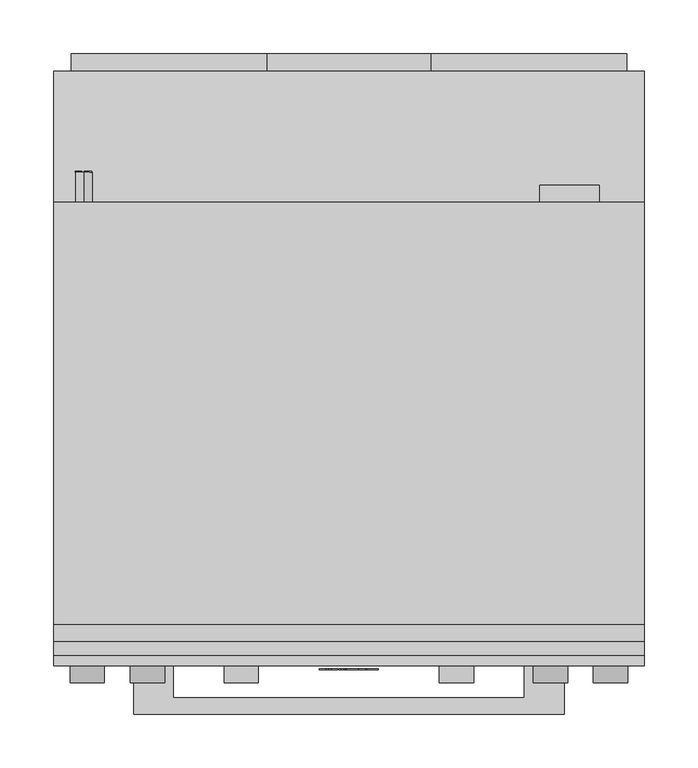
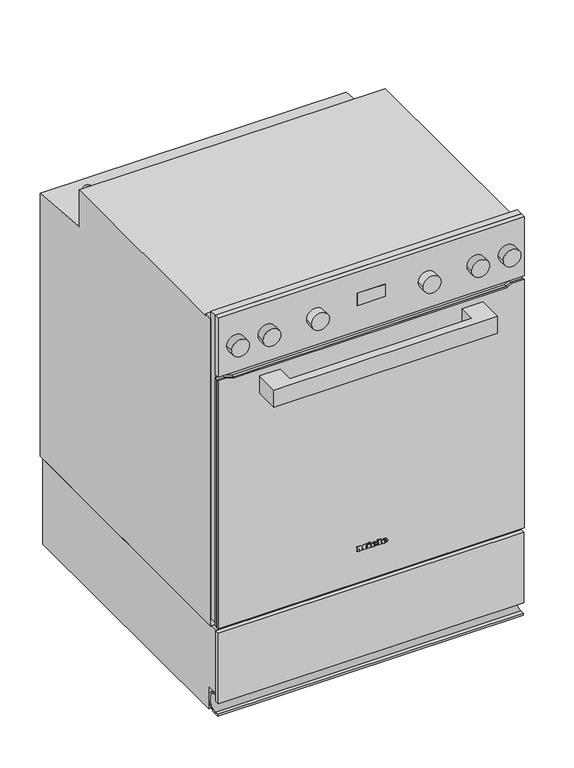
"""IFC4 building model written with IfcOpenShell, lengths in millimetres: proxy geometry, 12395250_CH_H2456-55E_OBSW : 22245626_CH_12395250_H2456-55E_OBSW."""

from ifc_helpers import new_model, si_unit, point, frame, frame_2d, origin, place, context, project, spatial, polyline, circle_curve, ellipse_curve, trimmed, segment, composite_curve, outline, extrude, faceted_brep, source, transform, mapped, element, save
from ifc_brep_helpers import plane_surface, cylinder_surface, revolved_surface, extruded_surface, advanced_brep


def specialty_equipment_07215765(model_context):
    return source(origin(), model_context, "Body", "SolidModel", [
        extrude(outline(polyline([(-273.5, -14.0), (273.5, -14.0), (273.5, -22.0), (-273.5, -22.0), (-273.5, -14.0)])), frame((0.0, 0.0, 28.0), z_axis=(0.0, 0.0, 1.0), x_axis=(1.0, 0.0, 0.0)), (0.0, 0.0, 1.0), 133.5),
        extrude(outline(composite_curve([segment(polyline([(-20.0, 3.3413786), (-20.0, 6.5166751), (-12.6417749, 6.5166751)]), True, "CONTINUOUS"), segment(trimmed(circle_curve(frame_2d((-12.6417749, 23.0333249)), 16.5166498), [point((-12.6417749, 6.5166751))], [point((-11.3579007, 39.5))], True, "CARTESIAN"), True, "CONTINUOUS"), segment(polyline([(-11.3579007, 39.5), (-14.0, 39.5), (-14.0, 42.0), (-12.0, 42.0)]), True, "CONTINUOUS"), segment(trimmed(circle_curve(frame_2d((-12.0, 23.0)), 19.0), [point((-12.0, 42.0))], [point((7.0, 23.0))], False, "CARTESIAN"), True, "CONTINUOUS"), segment(trimmed(circle_curve(frame_2d((-14.9470942, 23.0)), 21.9470942), [point((7.0, 23.0))], [point((3.3965309, 10.9506696))], False, "CARTESIAN"), True, "CONTINUOUS"), segment(trimmed(circle_curve(frame_2d((-12.0, 22.7225846)), 19.381206), [point((3.3965309, 10.9506696))], [point((-12.0, 3.3413786))], False, "CARTESIAN"), True, "CONTINUOUS"), segment(polyline([(-12.0, 3.3413786), (-20.0, 3.3413786)]), True, "CONTINUOUS")], self_intersect=False)), frame((-273.5, 0.0, 0.0), z_axis=(1.0, 0.0, 0.0), x_axis=(0.0, 1.0, 0.0)), (0.0, 0.0, 1.0), 547.0),
        extrude(outline(polyline([(-14.0, 162.0), (522.0, 162.0), (522.0, 0.0), (8.0, 0.0), (8.0, 43.1784801), (-14.0, 43.1784801), (-14.0, 162.0)])), frame((-273.5, 0.0, 0.0), z_axis=(1.0, 0.0, 0.0), x_axis=(0.0, 1.0, 0.0)), (0.0, 0.0, 1.0), 547.0),
        advanced_brep(
        [(21.28, -26.0, 234.133), (21.28, -26.0, 235.042), (27.301, -26.0, 235.042), (16.825, -26.0, 235.042), (19.3, -26.0, 232.0), (27.148, -26.0, 234.133), (24.43, -26.0, 234.133), (22.288, -26.0, 233.125), (21.28, -26.0, 236.194), (21.28, -26.0, 237.175), (22.819, -26.0, 237.175), (22.819, -26.0, 236.194), (21.28, -25.0, 234.133), (22.288, -25.0, 233.125), (24.43, -25.0, 234.133), (27.148, -25.0, 234.133), (19.3, -25.0, 232.0), (16.825, -25.0, 235.042), (27.301, -25.0, 235.042), (21.28, -25.0, 235.042), (21.28, -25.0, 236.194), (22.819, -25.0, 236.194), (22.819, -25.0, 237.175), (21.28, -25.0, 237.175)],
        [
            (0, 1),
            (1, 2),
            (2, 3, ellipse_curve(frame((22.063, -26.0, 235.042), z_axis=(0.0, -1.0, 0.0), x_axis=(-1.0, 0.0, 0.0)), 5.238, 4.329)),
            (3, 4, circle_curve(frame((20.3080491, -26.0, 235.348), z_axis=(0.0, -1.0, 0.0), x_axis=(0.0, 0.0, -1.0)), 3.4964649)),
            (4, 5, circle_curve(frame((21.9581428, -26.0, 237.724), z_axis=(0.0, -1.0, 0.0), x_axis=(0.0, 0.0, -1.0)), 6.3110933)),
            (5, 6),
            (6, 7, circle_curve(frame((22.7279412, -26.0, 234.97), z_axis=(0.0, 1.0, 0.0), x_axis=(0.0, 0.0, -1.0)), 1.896727)),
            (7, 0, circle_curve(frame((22.288, -26.0, 234.133), z_axis=(0.0, 1.0, 0.0), x_axis=(0.0, 0.0, -1.0)), 1.008)),
            (8, 9),
            (9, 10, circle_curve(frame((22.0495, -26.0, 237.175), z_axis=(0.0, 1.0, 0.0), x_axis=(0.0, 0.0, -1.0)), 0.7695)),
            (10, 11),
            (11, 8),
            (12, 13, circle_curve(frame((22.288, -25.0, 234.133), z_axis=(0.0, -1.0, 0.0), x_axis=(0.0, 0.0, -1.0)), 1.008)),
            (13, 14, circle_curve(frame((22.7279412, -25.0, 234.97), z_axis=(0.0, -1.0, 0.0), x_axis=(0.0, 0.0, -1.0)), 1.896727)),
            (14, 15),
            (15, 16, circle_curve(frame((21.9581428, -25.0, 237.724), z_axis=(0.0, 1.0, 0.0), x_axis=(0.0, 0.0, -1.0)), 6.3110933)),
            (16, 17, circle_curve(frame((20.3080491, -25.0, 235.348), z_axis=(0.0, 1.0, 0.0), x_axis=(0.0, 0.0, -1.0)), 3.4964649)),
            (17, 18, ellipse_curve(frame((22.063, -25.0, 235.042), z_axis=(0.0, 1.0, 0.0), x_axis=(-1.0, 0.0, 0.0)), 5.238, 4.329)),
            (18, 19),
            (19, 12),
            (20, 21),
            (21, 22),
            (22, 23, circle_curve(frame((22.0495, -25.0, 237.175), z_axis=(0.0, -1.0, 0.0), x_axis=(0.0, 0.0, -1.0)), 0.7695)),
            (23, 20),
            (0, 12),
            (19, 1),
            (18, 2),
            (5, 15),
            (14, 6),
            (17, 3),
            (13, 7),
            (16, 4),
            (8, 20),
            (23, 9),
            (22, 10),
            (21, 11),
        ],
        [
            plane_surface(frame((21.28, -26.0, 235.042), z_axis=(0.0, -1.0, 0.0), x_axis=(0.0, 0.0, 1.0))),
            plane_surface(frame((21.28, -25.0, 235.042), z_axis=(0.0, 1.0, 0.0), x_axis=(0.0, 0.0, -1.0))),
            plane_surface(frame((21.28, -26.0, 234.133), z_axis=(1.0, 0.0, 0.0), x_axis=(0.0, 1.0, 0.0))),
            plane_surface(frame((21.28, -26.0, 235.042), z_axis=(0.0, 0.0, -1.0), x_axis=(0.0, 1.0, 0.0))),
            plane_surface(frame((27.148, -26.0, 234.133), z_axis=(0.0, 0.0, 1.0), x_axis=(0.0, 1.0, 0.0))),
            extruded_surface(trimmed(ellipse_curve(frame((22.063, -24.0, 235.042), z_axis=(0.0, -1.0, 0.0), x_axis=(-1.0, 0.0, 0.0)), 5.238, 4.329), [point((27.301, -24.0, 235.042))], [point((16.825, -24.0, 235.042))], True, "CARTESIAN"), (0.0, -1.0, 0.0), 1.0),
            revolved_surface(polyline([(22.7279412, -25.0, 233.073273), (22.7279412, -26.0, 233.073273)]), (22.7279412, -25.0, 234.97), (0.0, 1.0, 0.0)),
            revolved_surface(polyline([(22.288, -25.0, 233.125), (22.288, -26.0, 233.125)]), (22.288, -25.0, 234.133), (0.0, 1.0, 0.0)),
            cylinder_surface(frame((20.3080491, -25.0, 235.348), z_axis=(0.0, -1.0, 0.0), x_axis=(0.0, 0.0, -1.0)), 3.4964649),
            cylinder_surface(frame((21.9581428, -25.0, 237.724), z_axis=(0.0, -1.0, 0.0), x_axis=(0.0, 0.0, -1.0)), 6.3110933),
            plane_surface(frame((21.28, -26.0, 236.194), z_axis=(1.0, 0.0, 0.0), x_axis=(0.0, 1.0, 0.0))),
            revolved_surface(polyline([(22.0495, -25.0, 236.40550000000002), (22.0495, -26.0, 236.40550000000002)]), (22.0495, -25.0, 237.175), (0.0, 1.0, 0.0)),
            plane_surface(frame((22.819, -26.0, 237.175), z_axis=(-1.0, 0.0, 0.0), x_axis=(0.0, 1.0, 0.0))),
            plane_surface(frame((22.819, -26.0, 236.194), z_axis=(0.0, 0.0, 1.0), x_axis=(0.0, 1.0, 0.0))),
        ],
        [
            (0, [[1, 2, 3, 4, 5, 6, 7, 8], [9, 10, 11, 12]]),
            (1, [[13, 14, 15, 16, 17, 18, 19, 20], [21, 22, 23, 24]]),
            (2, [[-1, 25, -20, 26]]),
            (3, [[-2, -26, -19, 27]]),
            (4, [[-6, 28, -15, 29]]),
            (5, [[-3, -27, -18, 30]]),
            (6, [[-7, -29, -14, 31]]),
            (7, [[-8, -31, -13, -25]]),
            (8, [[-4, -30, -17, 32]]),
            (9, [[-5, -32, -16, -28]]),
            (10, [[-9, 33, -24, 34]]),
            (11, [[-10, -34, -23, 35]]),
            (12, [[-11, -35, -22, 36]]),
            (13, [[-12, -36, -21, -33]]),
        ],
    ),
        advanced_brep(
        [(2.497, -26.0, 234.133), (2.497, -26.0, 235.042), (8.518, -26.0, 235.042), (-1.958, -26.0, 235.042), (0.517, -26.0, 232.0), (8.365, -26.0, 234.133), (5.647, -26.0, 234.133), (3.505, -26.0, 233.125), (2.497, -26.0, 236.194), (2.497, -26.0, 237.175), (4.036, -26.0, 237.175), (4.036, -26.0, 236.194), (2.497, -25.0, 234.133), (3.505, -25.0, 233.125), (5.647, -25.0, 234.133), (8.365, -25.0, 234.133), (0.517, -25.0, 232.0), (-1.958, -25.0, 235.042), (8.518, -25.0, 235.042), (2.497, -25.0, 235.042), (2.497, -25.0, 236.194), (4.036, -25.0, 236.194), (4.036, -25.0, 237.175), (2.497, -25.0, 237.175)],
        [
            (0, 1),
            (1, 2),
            (2, 3, ellipse_curve(frame((3.28, -26.0, 235.042), z_axis=(0.0, -1.0, 0.0), x_axis=(-1.0, 0.0, 0.0)), 5.238, 4.329)),
            (3, 4, circle_curve(frame((1.5250491, -26.0, 235.348), z_axis=(0.0, -1.0, 0.0), x_axis=(0.0, 0.0, -1.0)), 3.4964649)),
            (4, 5, circle_curve(frame((3.1751428, -26.0, 237.724), z_axis=(0.0, -1.0, 0.0), x_axis=(0.0, 0.0, -1.0)), 6.3110933)),
            (5, 6),
            (6, 7, circle_curve(frame((3.9449412, -26.0, 234.97), z_axis=(0.0, 1.0, 0.0), x_axis=(0.0, 0.0, -1.0)), 1.896727)),
            (7, 0, circle_curve(frame((3.505, -26.0, 234.133), z_axis=(0.0, 1.0, 0.0), x_axis=(0.0, 0.0, -1.0)), 1.008)),
            (8, 9),
            (9, 10, circle_curve(frame((3.2665, -26.0, 237.175), z_axis=(0.0, 1.0, 0.0), x_axis=(0.0, 0.0, -1.0)), 0.7695)),
            (10, 11),
            (11, 8),
            (12, 13, circle_curve(frame((3.505, -25.0, 234.133), z_axis=(0.0, -1.0, 0.0), x_axis=(0.0, 0.0, -1.0)), 1.008)),
            (13, 14, circle_curve(frame((3.9449412, -25.0, 234.97), z_axis=(0.0, -1.0, 0.0), x_axis=(0.0, 0.0, -1.0)), 1.896727)),
            (14, 15),
            (15, 16, circle_curve(frame((3.1751428, -25.0, 237.724), z_axis=(0.0, 1.0, 0.0), x_axis=(0.0, 0.0, -1.0)), 6.3110933)),
            (16, 17, circle_curve(frame((1.5250491, -25.0, 235.348), z_axis=(0.0, 1.0, 0.0), x_axis=(0.0, 0.0, -1.0)), 3.4964649)),
            (17, 18, ellipse_curve(frame((3.28, -25.0, 235.042), z_axis=(0.0, 1.0, 0.0), x_axis=(-1.0, 0.0, 0.0)), 5.238, 4.329)),
            (18, 19),
            (19, 12),
            (20, 21),
            (21, 22),
            (22, 23, circle_curve(frame((3.2665, -25.0, 237.175), z_axis=(0.0, -1.0, 0.0), x_axis=(0.0, 0.0, -1.0)), 0.7695)),
            (23, 20),
            (0, 12),
            (19, 1),
            (18, 2),
            (5, 15),
            (14, 6),
            (17, 3),
            (13, 7),
            (16, 4),
            (8, 20),
            (23, 9),
            (22, 10),
            (21, 11),
        ],
        [
            plane_surface(frame((2.497, -26.0, 235.042), z_axis=(0.0, -1.0, 0.0), x_axis=(0.0, 0.0, 1.0))),
            plane_surface(frame((2.497, -25.0, 235.042), z_axis=(0.0, 1.0, 0.0), x_axis=(0.0, 0.0, -1.0))),
            plane_surface(frame((2.497, -26.0, 234.133), z_axis=(1.0, 0.0, 0.0), x_axis=(0.0, 1.0, 0.0))),
            plane_surface(frame((2.497, -26.0, 235.042), z_axis=(0.0, 0.0, -1.0), x_axis=(0.0, 1.0, 0.0))),
            plane_surface(frame((8.365, -26.0, 234.133), z_axis=(0.0, 0.0, 1.0), x_axis=(0.0, 1.0, 0.0))),
            extruded_surface(trimmed(ellipse_curve(frame((3.28, -24.0, 235.042), z_axis=(0.0, -1.0, 0.0), x_axis=(-1.0, 0.0, 0.0)), 5.238, 4.329), [point((8.518, -24.0, 235.042))], [point((-1.958, -24.0, 235.042))], True, "CARTESIAN"), (0.0, -1.0, 0.0), 1.0),
            revolved_surface(polyline([(3.9449412, -25.0, 233.073273), (3.9449412, -26.0, 233.073273)]), (3.9449412, -25.0, 234.97), (0.0, 1.0, 0.0)),
            revolved_surface(polyline([(3.505, -25.0, 233.125), (3.505, -26.0, 233.125)]), (3.505, -25.0, 234.133), (0.0, 1.0, 0.0)),
            cylinder_surface(frame((1.5250491, -25.0, 235.348), z_axis=(0.0, -1.0, 0.0), x_axis=(0.0, 0.0, -1.0)), 3.4964649),
            cylinder_surface(frame((3.1751428, -25.0, 237.724), z_axis=(0.0, -1.0, 0.0), x_axis=(0.0, 0.0, -1.0)), 6.3110933),
            plane_surface(frame((2.497, -26.0, 236.194), z_axis=(1.0, 0.0, 0.0), x_axis=(0.0, 1.0, 0.0))),
            revolved_surface(polyline([(3.2665, -25.0, 236.40550000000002), (3.2665, -26.0, 236.40550000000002)]), (3.2665, -25.0, 237.175), (0.0, 1.0, 0.0)),
            plane_surface(frame((4.036, -26.0, 237.175), z_axis=(-1.0, 0.0, 0.0), x_axis=(0.0, 1.0, 0.0))),
            plane_surface(frame((4.036, -26.0, 236.194), z_axis=(0.0, 0.0, 1.0), x_axis=(0.0, 1.0, 0.0))),
        ],
        [
            (0, [[1, 2, 3, 4, 5, 6, 7, 8], [9, 10, 11, 12]]),
            (1, [[13, 14, 15, 16, 17, 18, 19, 20], [21, 22, 23, 24]]),
            (2, [[-1, 25, -20, 26]]),
            (3, [[-2, -26, -19, 27]]),
            (4, [[-6, 28, -15, 29]]),
            (5, [[-3, -27, -18, 30]]),
            (6, [[-7, -29, -14, 31]]),
            (7, [[-8, -31, -13, -25]]),
            (8, [[-4, -30, -17, 32]]),
            (9, [[-5, -32, -16, -28]]),
            (10, [[-9, 33, -24, 34]]),
            (11, [[-10, -34, -23, 35]]),
            (12, [[-11, -35, -22, 36]]),
            (13, [[-12, -36, -21, -33]]),
        ],
    ),
        extrude(outline(polyline([(240.469, -7.34), (239.011, -6.656), (240.433, -3.605), (241.891, -4.28), (240.469, -7.34)])), frame((0.0, -26.0, 0.0), z_axis=(0.0, 1.0, 0.0), x_axis=(0.0, 0.0, 1.0)), (0.0, 0.0, 1.0), 1.0),
        extrude(outline(polyline([(238.813, -9.563), (237.202, -9.563), (237.202, -8.492), (233.512, -8.492), (233.512, -9.563), (232.0, -9.563), (232.0, -2.462), (233.512, -2.462), (233.512, -3.506), (238.813, -3.506), (238.813, -9.563)])), frame((0.0, -26.0, 0.0), z_axis=(0.0, 1.0, 0.0), x_axis=(0.0, 0.0, 1.0)), (0.0, 0.0, 1.0), 1.0),
        extrude(outline(polyline([(239.533, 9.022), (239.533, 10.102), (233.512, 10.102), (233.512, 9.022), (232.0, 9.022), (232.0, 16.321), (233.512, 16.321), (233.512, 15.214), (241.0, 15.214), (241.0, 9.022), (239.533, 9.022)])), frame((0.0, -26.0, 0.0), z_axis=(0.0, 1.0, 0.0), x_axis=(0.0, 0.0, 1.0)), (0.0, 0.0, 1.0), 1.0),
        extrude(outline(polyline([(239.533, -27.5), (239.533, -26.411), (233.512, -26.411), (233.512, -27.5), (232.0, -27.5), (232.0, -23.54), (233.512, -23.54), (233.512, -24.62), (237.3341247, -24.62), (232.0, -20.597), (237.4402223, -16.556), (233.512, -16.556), (233.512, -17.663), (232.0, -17.663), (232.0, -10.481), (233.512, -10.481), (233.512, -11.624), (239.533, -11.624), (239.533, -10.481), (241.0, -10.481), (241.0, -15.962), (237.625, -18.59), (241.0, -21.227), (241.0, -27.5), (239.533, -27.5)])), frame((0.0, -26.0, 0.0), z_axis=(0.0, 1.0, 0.0), x_axis=(0.0, 0.0, 1.0)), (0.0, 0.0, 1.0), 1.0),
        extrude(outline(polyline([(-163.0, -22.0), (-163.0, -52.0), (163.0, -52.0), (163.0, -22.0), (200.0, -22.0), (200.0, -67.0), (-200.0, -67.0), (-200.0, -22.0), (-163.0, -22.0)])), frame((0.0, 0.0, 591.1002211), z_axis=(0.0, 0.0, 1.0), x_axis=(1.0, 0.0, 0.0)), (0.0, 0.0, 1.0), 31.8000183),
        extrude(outline(polyline([(639.5, -274.0), (170.0, -274.0), (170.0, 274.0), (639.5, 274.0), (639.5, 252.5209298), (634.5, 244.0), (634.5, -244.0), (639.5, -260.3542631), (639.5, -274.0)])), frame((0.0, -18.0, 0.0), z_axis=(0.0, 1.0, 0.0), x_axis=(0.0, 0.0, 1.0)), (0.0, 0.0, 1.0), 5.0),
        extrude(outline(polyline([(639.5, -274.0), (170.0, -274.0), (170.0, 274.0), (639.5, 274.0), (639.5, 252.5209298), (634.5, 244.0), (634.5, -244.0), (639.5, -260.3542631), (639.5, -274.0)])), frame((0.0, -22.0, 0.0), z_axis=(0.0, 1.0, 0.0), x_axis=(0.0, 0.0, 1.0)), (0.0, 0.0, 1.0), 4.0),
        extrude(outline(polyline([(25.25, -22.0), (-25.25, -22.0), (-25.25, -20.0), (25.25, -20.0), (25.25, -22.0)])), frame((0.0, 0.0, 694.5), z_axis=(0.0, 0.0, 1.0), x_axis=(1.0, 0.0, 0.0)), (0.0, 0.0, 1.0), 23.5),
        faceted_brep([(274.0, -22.0, 758.0), (-274.0, -22.0, 758.0), (-274.0, -22.0, 646.5), (274.0, -22.0, 646.5), (-25.25, -22.0, 718.0), (25.25, -22.0, 718.0), (25.25, -22.0, 694.5), (-25.25, -22.0, 694.5), (274.0, -13.0, 758.0), (274.0, -13.0, 646.5), (-274.0, -13.0, 646.5), (-274.0, -13.0, 758.0), (25.25, -20.0, 718.0), (-25.25, -20.0, 718.0), (-25.25, -20.0, 694.5), (25.25, -20.0, 694.5)], [[[0, 1, 2, 3], [4, 5, 6, 7]], [[8, 9, 10, 11]], [[1, 0, 8, 11]], [[2, 1, 11, 10]], [[3, 2, 10, 9]], [[0, 3, 9, 8]], [[12, 13, 14, 15]], [[13, 12, 5, 4]], [[14, 13, 4, 7]], [[15, 14, 7, 6]], [[12, 15, 6, 5]]]),
        extrude(outline(composite_curve([segment(trimmed(circle_curve(frame_2d((700.5, -100.0)), 16.0), [point((700.5, -116.0))], [point((700.5, -84.0))], False, "CARTESIAN"), True, "CONTINUOUS"), segment(trimmed(circle_curve(frame_2d((700.5, -100.0)), 16.0), [point((700.5, -84.0))], [point((700.5, -116.0))], False, "CARTESIAN"), True, "CONTINUOUS")], self_intersect=False)), frame((0.0, -38.0, 0.0), z_axis=(0.0, 1.0, 0.0), x_axis=(0.0, 0.0, 1.0)), (0.0, 0.0, 1.0), 16.0),
        extrude(outline(composite_curve([segment(trimmed(circle_curve(frame_2d((700.5, 100.0)), 16.0), [point((700.5, 84.0))], [point((700.5, 116.0))], False, "CARTESIAN"), True, "CONTINUOUS"), segment(trimmed(circle_curve(frame_2d((700.5, 100.0)), 16.0), [point((700.5, 116.0))], [point((700.5, 84.0))], False, "CARTESIAN"), True, "CONTINUOUS")], self_intersect=False)), frame((0.0, -38.0, 0.0), z_axis=(0.0, 1.0, 0.0), x_axis=(0.0, 0.0, 1.0)), (0.0, 0.0, 1.0), 16.0),
        extrude(outline(composite_curve([segment(trimmed(circle_curve(frame_2d((700.5, -243.0)), 16.0), [point((700.5, -259.0))], [point((700.5, -227.0))], False, "CARTESIAN"), True, "CONTINUOUS"), segment(trimmed(circle_curve(frame_2d((700.5, -243.0)), 16.0), [point((700.5, -227.0))], [point((700.5, -259.0))], False, "CARTESIAN"), True, "CONTINUOUS")], self_intersect=False)), frame((0.0, -38.0, 0.0), z_axis=(0.0, 1.0, 0.0), x_axis=(0.0, 0.0, 1.0)), (0.0, 0.0, 1.0), 16.0),
        extrude(outline(composite_curve([segment(trimmed(circle_curve(frame_2d((700.5, 187.0)), 16.0), [point((700.5, 203.0))], [point((700.5, 171.0))], False, "CARTESIAN"), True, "CONTINUOUS"), segment(trimmed(circle_curve(frame_2d((700.5, 187.0)), 16.0), [point((700.5, 171.0))], [point((700.5, 203.0))], False, "CARTESIAN"), True, "CONTINUOUS")], self_intersect=False)), frame((0.0, -38.0, 0.0), z_axis=(0.0, 1.0, 0.0), x_axis=(0.0, 0.0, 1.0)), (0.0, 0.0, 1.0), 16.0),
        extrude(outline(composite_curve([segment(trimmed(circle_curve(frame_2d((700.5, -187.0)), 16.0), [point((700.5, -203.0))], [point((700.5, -171.0))], False, "CARTESIAN"), True, "CONTINUOUS"), segment(trimmed(circle_curve(frame_2d((700.5, -187.0)), 16.0), [point((700.5, -171.0))], [point((700.5, -203.0))], False, "CARTESIAN"), True, "CONTINUOUS")], self_intersect=False)), frame((0.0, -38.0, 0.0), z_axis=(0.0, 1.0, 0.0), x_axis=(0.0, 0.0, 1.0)), (0.0, 0.0, 1.0), 16.0),
        extrude(outline(composite_curve([segment(trimmed(circle_curve(frame_2d((700.5, 243.0)), 16.0), [point((700.5, 227.0))], [point((700.5, 259.0))], False, "CARTESIAN"), True, "CONTINUOUS"), segment(trimmed(circle_curve(frame_2d((700.5, 243.0)), 16.0), [point((700.5, 259.0))], [point((700.5, 227.0))], False, "CARTESIAN"), True, "CONTINUOUS")], self_intersect=False)), frame((0.0, -38.0, 0.0), z_axis=(0.0, 1.0, 0.0), x_axis=(0.0, 0.0, 1.0)), (0.0, 0.0, 1.0), 16.0),
        faceted_brep([(274.0, 0.0, 162.0), (274.0, 530.0, 162.0), (274.0, 530.0, 659.4219562), (274.0, 408.0, 670.5494875), (274.0, 408.0, 740.0), (274.0, 16.0, 740.0), (274.0, 16.0, 743.0), (274.0, 0.0, 743.0), (-274.0, 0.0, 162.0), (-274.0, 0.0, 743.0), (-274.0, 16.0, 743.0), (-274.0, 16.0, 740.0), (-274.0, 408.0, 740.0), (-274.0, 408.0, 670.5494875), (-274.0, 530.0, 659.4219562), (-274.0, 530.0, 162.0), (-235.0, 0.0, 590.0), (235.0, 0.0, 590.0), (235.0, 0.0, 204.0), (-235.0, 0.0, 204.0), (235.0, 433.0, 590.0), (-235.0, 433.0, 590.0), (-235.0, 433.0, 204.0), (235.0, 433.0, 204.0)], [[[0, 1, 2, 3, 4, 5, 6, 7]], [[8, 9, 10, 11, 12, 13, 14, 15]], [[1, 0, 8, 15]], [[1, 15, 14, 2]], [[11, 5, 4, 12]], [[0, 7, 9, 8], [16, 17, 18, 19]], [[6, 5, 11, 10]], [[7, 6, 10, 9]], [[13, 3, 2, 14]], [[3, 13, 12, 4]], [[20, 21, 22, 23]], [[21, 20, 17, 16]], [[22, 21, 16, 19]], [[23, 22, 19, 18]], [[20, 23, 18, 17]]]),
        extrude(outline(polyline([(720.0464496, -245.8425503), (718.7915157, -245.8425503), (718.7915157, -239.8786472), (715.8088265, -239.8786472), (715.8088265, -245.5253567), (714.5510117, -245.5253567), (714.5510117, -239.8786472), (711.2605911, -239.8786472), (711.2605911, -245.9946301), (709.9978772, -245.9946301), (709.9978772, -238.6251477), (720.0464496, -238.6251477), (720.0464496, -245.8425503)])), frame((0.0, 436.0, 0.0), z_axis=(0.0, 1.0, 0.0), x_axis=(0.0, 0.0, 1.0)), (0.0, 0.0, 1.0), 1.0),
        extrude(outline(polyline([(720.0498619, -249.1372374), (711.2558696, -249.1372374), (711.2558696, -254.1557124), (710.0011788, -254.1557124), (710.0011788, -247.8766443), (720.0498619, -247.8766443), (720.0498619, -249.1372374)])), frame((0.0, 436.0, 0.0), z_axis=(0.0, 1.0, 0.0), x_axis=(0.0, 0.0, 1.0)), (0.0, 0.0, 1.0), 1.0),
        extrude(outline(composite_curve([segment(trimmed(circle_curve(frame_2d((715.0, -246.0)), 7.5), [point((707.5, -246.0))], [point((722.5, -246.0))], False, "CARTESIAN"), True, "CONTINUOUS"), segment(trimmed(circle_curve(frame_2d((715.0, -246.0)), 7.5), [point((722.5, -246.0))], [point((707.5, -246.0))], False, "CARTESIAN"), True, "CONTINUOUS")], self_intersect=False)), frame((0.0, 406.0, 0.0), z_axis=(0.0, 1.0, 0.0), x_axis=(0.0, 0.0, 1.0)), (0.0, 0.0, 1.0), 30.0),
        extrude(outline(polyline([(499.5, 76.0), (540.5, 76.0), (540.5, -76.0), (499.5, -76.0), (499.5, -258.0), (351.6961275, -258.0), (351.6961275, -76.0), (326.5, -76.0), (326.5, 76.0), (351.6961275, 76.0), (351.6961275, 258.0), (499.5, 258.0), (499.5, 76.0)])), frame((0.0, 530.0, 0.0), z_axis=(0.0, 1.0, 0.0), x_axis=(0.0, 0.0, 1.0)), (0.0, 0.0, 1.0), 16.0),
        extrude(outline(polyline([(232.3464926, 408.0), (177.3464926, 408.0), (177.3464926, 424.0), (232.3464926, 424.0), (232.3464926, 408.0)])), frame((0.0, 0.0, 690.0), z_axis=(0.0, 0.0, 1.0), x_axis=(1.0, 0.0, 0.0)), (0.0, 0.0, 1.0), 26.0),
        extrude(outline(polyline([(177.0, 274.0), (758.0, 274.0), (758.0, -274.0), (177.0, -274.0), (177.0, -272.0), (646.0, -272.0), (646.0, 272.0), (177.0, 272.0), (177.0, 274.0)])), frame((0.0, -13.0, 0.0), z_axis=(0.0, 1.0, 0.0), x_axis=(0.0, 0.0, 1.0)), (0.0, 0.0, 1.0), 13.0),
    ])


if __name__ == "__main__":
    model = new_model("IFC4")
    model_context = context("Model", 3, world=origin())
    ifc_project = project(units=[si_unit("LENGTHUNIT", "METRE", prefix="MILLI")], contexts=[model_context])
    site = spatial("IfcSite", under=ifc_project)
    building = spatial("IfcBuilding", under=site)
    placement = place(None, origin())
    specialty_equipment_shape = specialty_equipment_07215765(model_context)
    element("IfcBuildingElementProxy", 1, Name="12395250_CH_H2456-55E_OBSW : 22245626_CH_12395250_H2456-55E_OBSW", ObjectType="12395250_CH_H2456-55E_OBSW : 22245626_CH_12395250_H2456-55E_OBSW", at=placement, inside=building, context=model_context, shape_type="MappedRepresentation", body=[
        mapped(specialty_equipment_shape, transform((0.0, 0.0, 0.0), x_axis=(1.0, 0.0, 0.0), y_axis=(0.0, 1.0, 0.0), z_axis=(0.0, 0.0, 1.0))),
    ])
    save(model, "model.ifc")
